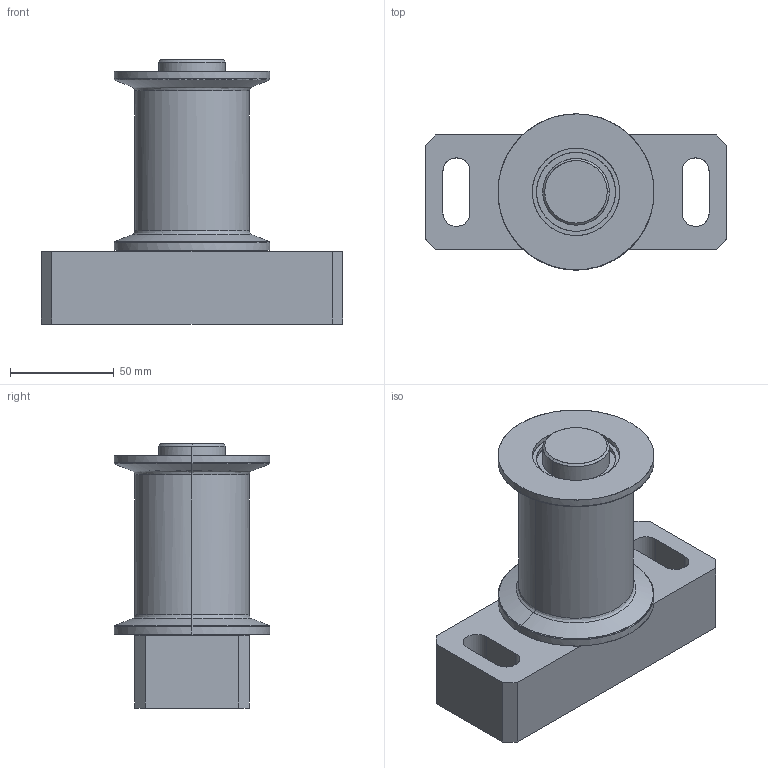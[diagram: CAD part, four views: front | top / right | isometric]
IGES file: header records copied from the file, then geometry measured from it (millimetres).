
Global section: file name: E:\UnigraphicsGraphicData\MISUMI_PRESS-PARTS\IGES\3d_gdrtb55-70_03788_r00.igs; native system: NX V5.0; preprocessor: UGS NX IGES V5.0; author: MISUMI; date: 20110105.160708; units: millimetre
Bounding box: 145 x 75 x 127 mm (x, y, z)
Surface area: 92417.5 mm2 (no closed solid volume)
Topology: 0 solids, 0 shells, 107 faces, 1024 edges, 1024 vertices
Faces by surface type: bspline 107
